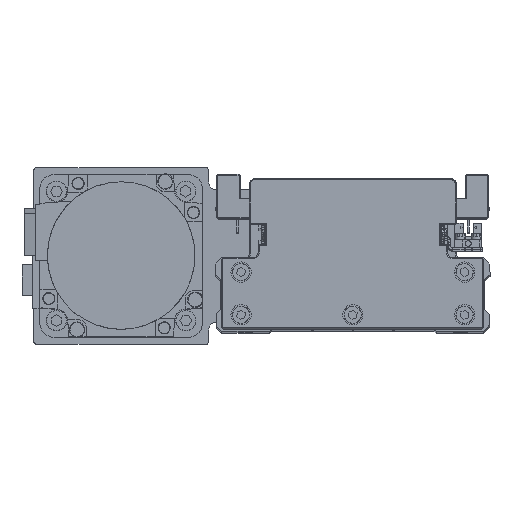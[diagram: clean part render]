
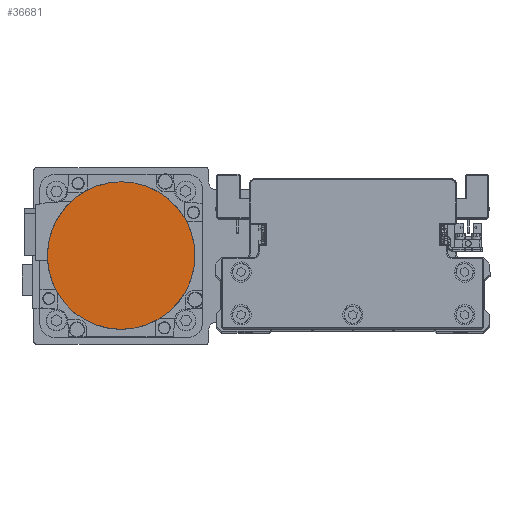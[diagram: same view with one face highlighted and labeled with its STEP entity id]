
A CAD part, top view. The second image highlights one B-rep face of the part: STEP entity #36681.
In plain terms, the highlighted planar face has unit normal (0, 0, 1) as drawn and (0, 0, -1) by its records, which use the part's own axes.
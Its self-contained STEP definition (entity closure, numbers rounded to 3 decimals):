
#450 = FACE_OUTER_BOUND ( 'NONE', #37851, .T. ) ;
#3314 = VERTEX_POINT ( 'NONE', #19642 ) ;
#4366 = AXIS2_PLACEMENT_3D ( 'NONE', #39163, #11668, #23932 ) ;
#6230 = DIRECTION ( 'NONE',  ( 0., -1., 0. ) ) ;
#7088 = ORIENTED_EDGE ( 'NONE', *, *, #9538, .F. ) ;
#9538 = EDGE_CURVE ( 'NONE', #13447, #3314, #30987, .T. ) ;
#9702 = DIRECTION ( 'NONE',  ( 1., 0., 0. ) ) ;
#11668 = DIRECTION ( 'NONE',  ( 0., 0., 1. ) ) ;
#12720 = PLANE ( 'NONE',  #13306 ) ;
#13306 = AXIS2_PLACEMENT_3D ( 'NONE', #24979, #37205, #9702 ) ;
#13447 = VERTEX_POINT ( 'NONE', #21086 ) ;
#13663 = AXIS2_PLACEMENT_3D ( 'NONE', #21502, #33746, #6230 ) ;
#19642 = CARTESIAN_POINT ( 'NONE',  ( 0., 36.3, -122.2 ) ) ;
#21086 = CARTESIAN_POINT ( 'NONE',  ( 0., -36.3, -122.2 ) ) ;
#21502 = CARTESIAN_POINT ( 'NONE',  ( 0., 0., -122.2 ) ) ;
#21704 = CIRCLE ( 'NONE', #4366, 36.3 ) ;
#23932 = DIRECTION ( 'NONE',  ( 0., 1., 0. ) ) ;
#24979 = CARTESIAN_POINT ( 'NONE',  ( 0., 0., -122.2 ) ) ;
#28096 = ORIENTED_EDGE ( 'NONE', *, *, #39052, .F. ) ;
#30987 = CIRCLE ( 'NONE', #13663, 36.3 ) ;
#33746 = DIRECTION ( 'NONE',  ( 0., 0., 1. ) ) ;
#36681 = ADVANCED_FACE ( 'NONE', ( #450 ), #12720, .F. ) ;
#37205 = DIRECTION ( 'NONE',  ( 0., 0., 1. ) ) ;
#37851 = EDGE_LOOP ( 'NONE', ( #28096, #7088 ) ) ;
#39052 = EDGE_CURVE ( 'NONE', #3314, #13447, #21704, .T. ) ;
#39163 = CARTESIAN_POINT ( 'NONE',  ( 0., 0., -122.2 ) ) ;
